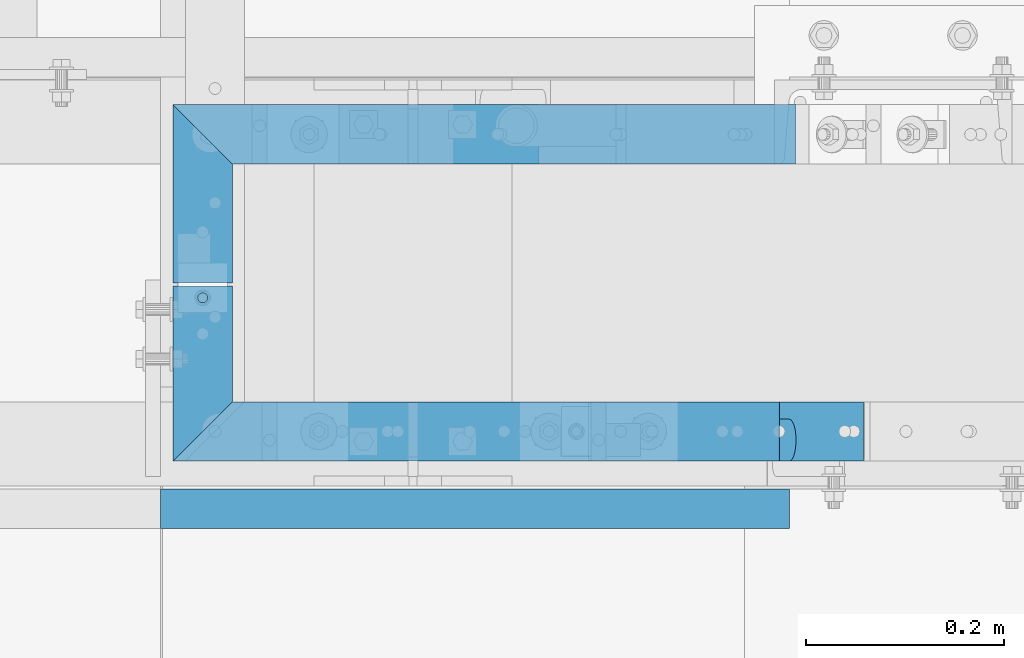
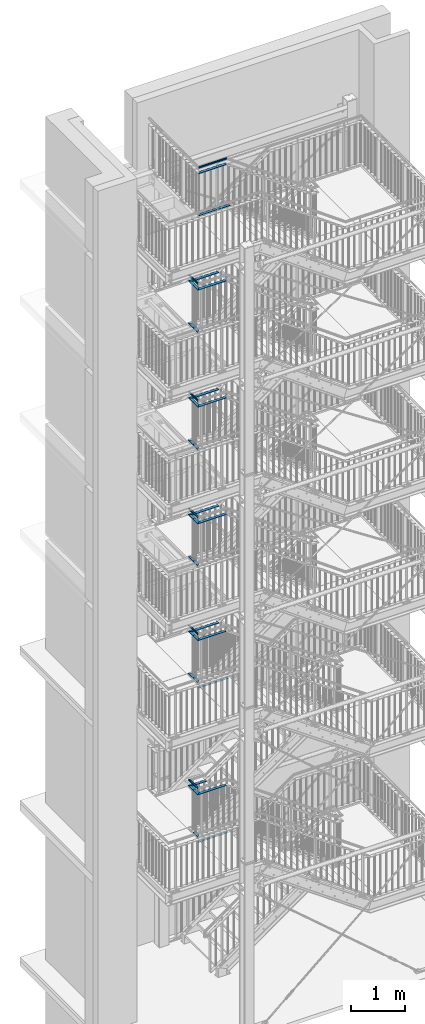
# One storey, part 133 of 825: 47 beams, 13 openings.
"""IFC2X3 building model written with IfcOpenShell, lengths in millimetres."""

from ifc_helpers import new_model, entity, si_unit, converted_unit, frame, frame_2d, origin, origin_with_axes, origin_2d, place, context, project, spatial, polyline, rectangle, circle, hollow_circle, l_section, outline, extrude, clip, halfspace, material, element, save


model = new_model("IFC2X3")

# Units and contexts
model_context = context("Model", 3, precision=1e-09, world=origin_with_axes())
ifc_project = project(units=[si_unit("LENGTHUNIT", "METRE", prefix="MILLI"), si_unit("AREAUNIT", "SQUARE_METRE"), si_unit("VOLUMEUNIT", "CUBIC_METRE"), converted_unit("PLANEANGLEUNIT", "DEGREE", entity("IfcPlaneAngleMeasure", 0.01745329), si_unit("PLANEANGLEUNIT", "RADIAN"), dimensions=[0, 0, 0, 0, 0, 0, 0])], contexts=[model_context])

# Site, building, storey
site_placement = place(None, origin_with_axes())
site = spatial("IfcSite", under=ifc_project, at=site_placement, Name="Cnopf'sche Kinderklinik", CompositionType="ELEMENT")
building_placement = place(site_placement, origin_with_axes())
building = spatial("IfcBuilding", under=site, at=building_placement, Name="Struktur 1", CompositionType="ELEMENT")
storey_placement = place(building_placement, origin_with_axes())
storey = spatial("IfcBuildingStorey", under=building, at=storey_placement, Name="Default Storey", CompositionType="ELEMENT", Elevation=0.0)

# Beam, opening
ifc_material = material(Name="S235JR")
beam_1_placement = place(None, frame((5311.633939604, 5791.736971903, 17899.0), z_axis=(1.0, 0.0, 0.0), x_axis=(0.0, 0.0, -1.0)))
beam_1 = element("IfcBeam", 1, at=beam_1_placement, inside=storey, material=ifc_material, Name="Railing_Kneerail_Landing#4", ObjectType="Railing_Kneerail_Landing#4", context=model_context, shape_type="SweptSolid", body=[
    extrude(rectangle(XDim=10.0, YDim=60.0, at=origin_2d()), origin(), (0.0, 0.0, -1.0), 267.420036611),
])
opening_1_placement = place(beam_1_placement, frame((60.0, 0.0, -267.420036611), z_axis=(-1.0, 0.0, 0.0), x_axis=(0.0, 0.0, 1.0)))
element("IfcOpeningElement", 2, at=opening_1_placement, cuts=beam_1, ObjectType="Opening", context=model_context, shape_type="SweptSolid", body=[
    extrude(outline(polyline([(-7.501, 30.001), (-7.501, -30.001), (7.501, -30.001), (7.501, 30.001), (-7.501, 30.001)])), origin(), (0.0, 0.0, 1.0), 120.0),
])

beam_2_placement = place(None, frame((5033.713902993, 5791.736971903, 17899.0), z_axis=(1.0, 0.0, 0.0), x_axis=(0.0, 0.0, -1.0)))
beam_2 = element("IfcBeam", 3, at=beam_2_placement, inside=storey, material=ifc_material, Name="Railing_Kneerail_Landing#5", ObjectType="Railing_Kneerail_Landing#5", context=model_context, shape_type="Clipping", body=[
    clip(extrude(rectangle(XDim=10.0, YDim=60.0, at=origin_2d()), origin(), (0.0, 0.0, -1.0), 420.012126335), halfspace(frame((17899.0, -5224.225894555, -5601.224980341), z_axis=(0.0, -0.707106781, 0.707106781), x_axis=(0.0, 0.707106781, 0.707106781)), True)),
])
opening_2_placement = place(beam_2_placement, frame((5.5, 0.0, -6.998999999), z_axis=(1.0, 0.0, 0.0), x_axis=(0.0, 1.0, 0.0)))
element("IfcOpeningElement", 4, at=opening_2_placement, cuts=beam_2, ObjectType="Opening", context=model_context, shape_type="SweptSolid", body=[
    extrude(circle(Radius=5.001, at=frame_2d((0.0, -5.001), x_axis=(1.0, 0.0))), origin(), (0.0, 0.0, -1.0), 11.0),
])

# Beams
beam_3_placement = place(None, frame((4558.701776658, 6091.736971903, 16227.8), z_axis=(-1.0, 0.0, 0.0), x_axis=(0.0, 0.0, -1.0)))
element("IfcBeam", 5, at=beam_3_placement, inside=storey, material=ifc_material, Name="Railing_Kneerail_Landing#1001", ObjectType="Railing_Kneerail_Landing#1001", context=model_context, shape_type="Clipping", body=[
    clip(extrude(rectangle(XDim=10.0, YDim=60.0, at=origin_2d()), origin(), (0.0, 0.0, -1.0), 684.847925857), halfspace(frame((16227.8, 723.761077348, -809.274117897), z_axis=(0.0, -0.707106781, -0.707106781), x_axis=(0.0, -0.707106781, 0.707106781)), True)),
])
beam_4_placement = place(None, frame((5226.605754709, 5791.736971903, 16227.8), z_axis=(1.0, 0.0, 0.0), x_axis=(0.0, 0.0, -1.0)))
element("IfcBeam", 6, at=beam_4_placement, inside=storey, material=ifc_material, Name="Railing_Kneerail_Landing#1005", ObjectType="Railing_Kneerail_Landing#1005", context=model_context, shape_type="Clipping", body=[
    clip(extrude(rectangle(XDim=10.0, YDim=60.0, at=origin_2d()), origin(), (0.0, 0.0, -1.0), 625.403978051), halfspace(frame((16227.8, -5217.975894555, -5800.366832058), z_axis=(0.0, -0.707106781, 0.707106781), x_axis=(0.0, 0.707106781, 0.707106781)), True)),
])
beam_5_placement = place(None, frame((4558.701776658, 6091.736971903, 13592.8), z_axis=(-1.0, 0.0, 0.0), x_axis=(0.0, 0.0, -1.0)))
element("IfcBeam", 7, at=beam_5_placement, inside=storey, material=ifc_material, Name="Railing_Kneerail_Landing#1001", ObjectType="Railing_Kneerail_Landing#1001", context=model_context, shape_type="Clipping", body=[
    clip(extrude(rectangle(XDim=10.0, YDim=60.0, at=origin_2d()), origin(), (0.0, 0.0, -1.0), 684.879643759), halfspace(frame((13592.8, 723.761077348, -809.274117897), z_axis=(0.0, -0.707106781, -0.707106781), x_axis=(0.0, -0.707106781, 0.707106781)), True)),
])
beam_6_placement = place(None, frame((5226.630632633, 5791.736971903, 13592.8), z_axis=(1.0, 0.0, 0.0), x_axis=(0.0, 0.0, -1.0)))
element("IfcBeam", 8, at=beam_6_placement, inside=storey, material=ifc_material, Name="Railing_Kneerail_Landing#1005", ObjectType="Railing_Kneerail_Landing#1005", context=model_context, shape_type="Clipping", body=[
    clip(extrude(rectangle(XDim=10.0, YDim=60.0, at=origin_2d()), origin(), (0.0, 0.0, -1.0), 625.428855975), halfspace(frame((13592.8, -5217.975894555, -5800.391709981), z_axis=(0.0, -0.707106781, 0.707106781), x_axis=(0.0, 0.707106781, 0.707106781)), True)),
])
beam_7_placement = place(None, frame((4558.701776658, 6091.736971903, 10965.8), z_axis=(-1.0, 0.0, 0.0), x_axis=(0.0, 0.0, -1.0)))
element("IfcBeam", 9, at=beam_7_placement, inside=storey, material=ifc_material, Name="Railing_Kneerail_Landing#1001", ObjectType="Railing_Kneerail_Landing#1001", context=model_context, shape_type="Clipping", body=[
    clip(extrude(rectangle(XDim=10.0, YDim=60.0, at=origin_2d()), origin(), (0.0, 0.0, -1.0), 684.862739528), halfspace(frame((10965.8, 723.761077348, -809.274117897), z_axis=(0.0, -0.707106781, -0.707106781), x_axis=(0.0, -0.707106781, 0.707106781)), True)),
])
beam_8_placement = place(None, frame((5226.61507921, 5791.736971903, 10965.8), z_axis=(1.0, 0.0, 0.0), x_axis=(0.0, 0.0, -1.0)))
element("IfcBeam", 10, at=beam_8_placement, inside=storey, material=ifc_material, Name="Railing_Kneerail_Landing#1005", ObjectType="Railing_Kneerail_Landing#1005", context=model_context, shape_type="Clipping", body=[
    clip(extrude(rectangle(XDim=10.0, YDim=60.0, at=origin_2d()), origin(), (0.0, 0.0, -1.0), 625.413302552), halfspace(frame((10965.8, -5217.975894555, -5800.376156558), z_axis=(0.0, -0.707106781, 0.707106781), x_axis=(0.0, 0.707106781, 0.707106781)), True)),
])
beam_9_placement = place(None, frame((4558.701776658, 6091.736971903, 8333.8), z_axis=(-1.0, 0.0, 0.0), x_axis=(0.0, 0.0, -1.0)))
element("IfcBeam", 11, at=beam_9_placement, inside=storey, material=ifc_material, Name="Railing_Kneerail_Landing#1001", ObjectType="Railing_Kneerail_Landing#1001", context=model_context, shape_type="Clipping", body=[
    clip(extrude(rectangle(XDim=10.0, YDim=60.0, at=origin_2d()), origin(), (0.0, 0.0, -1.0), 684.873307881), halfspace(frame((8333.8, 723.761077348, -809.274117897), z_axis=(0.0, -0.707106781, -0.707106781), x_axis=(0.0, -0.707106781, 0.707106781)), True)),
])
beam_10_placement = place(None, frame((5226.843558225, 5791.736971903, 8333.8), z_axis=(1.0, 0.0, 0.0), x_axis=(0.0, 0.0, -1.0)))
element("IfcBeam", 12, at=beam_10_placement, inside=storey, material=ifc_material, Name="Railing_Kneerail_Landing#1006", ObjectType="Railing_Kneerail_Landing#1006", context=model_context, shape_type="Clipping", body=[
    clip(extrude(rectangle(XDim=10.0, YDim=60.0, at=origin_2d()), origin(), (0.0, 0.0, -1.0), 625.641781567), halfspace(frame((8333.8, -5217.975894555, -5800.604635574), z_axis=(0.0, -0.707106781, 0.707106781), x_axis=(0.0, 0.707106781, 0.707106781)), True)),
])
beam_11_placement = place(None, frame((4558.701776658, 6091.736971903, 4860.8), z_axis=(-1.0, 0.0, 0.0), x_axis=(0.0, 0.0, -1.0)))
element("IfcBeam", 13, at=beam_11_placement, inside=storey, material=ifc_material, Name="Railing_Kneerail_Landing#1000", ObjectType="Railing_Kneerail_Landing#1000", context=model_context, shape_type="Clipping", body=[
    clip(extrude(rectangle(XDim=10.0, YDim=60.0, at=origin_2d()), origin(), (0.0, 0.0, -1.0), 424.718059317), halfspace(frame((4860.8, 723.761077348, -809.274117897), z_axis=(0.0, -0.707106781, -0.707106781), x_axis=(0.0, -0.707106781, 0.707106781)), True)),
])
beam_12_placement = place(None, frame((5226.741597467, 5791.736971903, 4860.8), z_axis=(1.0, 0.0, 0.0), x_axis=(0.0, 0.0, -1.0)))
element("IfcBeam", 14, at=beam_12_placement, inside=storey, material=ifc_material, Name="Railing_Kneerail_Landing#1006", ObjectType="Railing_Kneerail_Landing#1006", context=model_context, shape_type="Clipping", body=[
    clip(extrude(rectangle(XDim=10.0, YDim=60.0, at=origin_2d()), origin(), (0.0, 0.0, -1.0), 625.539820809), halfspace(frame((4860.8, -5217.975894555, -5800.502674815), z_axis=(0.0, -0.707106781, 0.707106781), x_axis=(0.0, 0.707106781, 0.707106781)), True)),
])
for number, where, z_axis, x_axis, name in (
    (15, (4601.713402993, 5722.536971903, 3835.8), (-1.0, 0.0, 0.0), (0.0, 0.0, -1.0), "TopLanding#3"),
    (16, (4601.713402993, 5722.536971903, 7308.8), (-1.0, 0.0, 0.0), (0.0, 0.0, -1.0), "TopLanding#3"),
):
    element("IfcBeam", number, at=place(None, frame(where, z_axis=z_axis, x_axis=x_axis)), inside=storey, material=ifc_material, Name=name, ObjectType="TopLanding#3", context=model_context, shape_type="SweptSolid", body=[
        extrude(l_section(Depth=40.0, Width=40.0, Thickness=4.0, FilletRadius=6.0, EdgeRadius=3.0, at=frame_2d((8.8, 8.8))), origin(), (0.0, 0.0, -1.0), 635.0),
    ])
beam_13_placement = place(None, frame((5226.652433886, 5791.736971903, 18847.8), z_axis=(1.0, 0.0, 0.0), x_axis=(0.0, 0.0, -1.0)))
element("IfcBeam", 17, at=beam_13_placement, inside=storey, material=ifc_material, Name="Railing_Kneerail_Landing#1005", ObjectType="Railing_Kneerail_Landing#1005", context=model_context, shape_type="SweptSolid", body=[
    extrude(rectangle(XDim=10.0, YDim=60.0, at=origin_2d()), origin(), (0.0, 0.0, -1.0), 189.938530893),
])

# Beam, opening
beam_14_placement = place(None, frame((5033.713902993, 5791.736971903, 18847.8), z_axis=(1.0, 0.0, 0.0), x_axis=(0.0, 0.0, -1.0)))
beam_14 = element("IfcBeam", 18, at=beam_14_placement, inside=storey, material=ifc_material, Name="Railing_Kneerail_Landing#1005", ObjectType="Railing_Kneerail_Landing#1005", context=model_context, shape_type="Clipping", body=[
    clip(extrude(rectangle(XDim=10.0, YDim=60.0, at=origin_2d()), origin(), (0.0, 0.0, -1.0), 420.012126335), halfspace(frame((18847.8, -5224.225894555, -5601.224980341), z_axis=(0.0, -0.707106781, 0.707106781), x_axis=(0.0, 0.707106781, 0.707106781)), True)),
])
opening_3_placement = place(beam_14_placement, frame((5.5, 0.0, -6.998999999), z_axis=(1.0, 0.0, 0.0), x_axis=(0.0, 1.0, 0.0)))
element("IfcOpeningElement", 19, at=opening_3_placement, cuts=beam_14, ObjectType="Opening", context=model_context, shape_type="SweptSolid", body=[
    extrude(circle(Radius=5.001, at=frame_2d((0.0, -5.001), x_axis=(1.0, 0.0))), origin(), (0.0, 0.0, -1.0), 11.0),
])

# Beams
beam_15_placement = place(None, frame((5268.214989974, 5782.936971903, 18974.0), z_axis=(1.0, 0.0, 0.0), x_axis=(0.0, 0.0, -1.0)))
element("IfcBeam", 20, at=beam_15_placement, inside=storey, material=ifc_material, Name="Railing_Handrail_Landing#4", ObjectType="Railing_Handrail_Landing#4", context=model_context, shape_type="Clipping", body=[
    clip(extrude(hollow_circle(Radius=21.2, WallThickness=3.2, at=origin_2d()), origin(), (0.0, 0.0, -1.0), 231.501086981), halfspace(frame((18716.438937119, -5782.936971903, -6066.935776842), z_axis=(-0.306904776, 0.0, -0.951740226), x_axis=(0.0, -1.0, 0.0)), True)),
])
beam_16_placement = place(None, frame((5033.713902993, 5782.936971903, 18974.0), z_axis=(1.0, 0.0, 0.0), x_axis=(0.0, 0.0, -1.0)))
element("IfcBeam", 21, at=beam_16_placement, inside=storey, material=ifc_material, Name="Railing_Handrail_Landing#4", ObjectType="Railing_Handrail_Landing#4", context=model_context, shape_type="Clipping", body=[
    clip(extrude(hollow_circle(Radius=21.2, WallThickness=3.2, at=origin_2d()), origin(), (0.0, 0.0, -1.0), 428.2005), halfspace(frame((18974.0, -5215.425894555, -5601.224980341), z_axis=(0.0, -0.707106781, 0.707106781), x_axis=(0.0, 0.707106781, 0.707106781)), True)),
])
beam_17_placement = place(None, frame((4635.413402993, 5740.536971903, 16354.0), z_axis=(0.0, -1.0, 0.0), x_axis=(0.0, 0.0, -1.0)))
element("IfcBeam", 22, at=beam_17_placement, inside=storey, material=ifc_material, Name="Railing_Handrail_Landing#5", ObjectType="Railing_Handrail_Landing#5", context=model_context, shape_type="Clipping", body=[
    clip(extrude(hollow_circle(Radius=21.2, WallThickness=3.2, at=origin_2d()), origin(), (0.0, 0.0, -1.0), 198.2), halfspace(frame((16354.0, -5209.175894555, 5166.774480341), z_axis=(0.0, -0.707106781, -0.707106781), x_axis=(0.0, -0.707106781, 0.707106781)), True)),
])
beam_18_placement = place(None, frame((4635.413402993, 5941.736971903, 16354.0), z_axis=(0.0, -1.0, 0.0), x_axis=(0.0, 0.0, -1.0)))
element("IfcBeam", 23, at=beam_18_placement, inside=storey, material=ifc_material, Name="Railing_Handrail_Landing#5", ObjectType="Railing_Handrail_Landing#5", context=model_context, shape_type="Clipping", body=[
    clip(extrude(hollow_circle(Radius=21.2, WallThickness=3.2, at=origin_2d()), origin(), (0.0, 0.0, -1.0), 201.2), halfspace(frame((16354.0, 732.561077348, 573.762491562), z_axis=(0.0, -0.707106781, 0.707106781), x_axis=(0.0, 0.707106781, 0.707106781)), True)),
])

# Beam, opening
beam_19_placement = place(None, frame((4644.213402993, 5748.725345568, 16227.8), z_axis=(0.0, -1.0, 0.0), x_axis=(0.0, 0.0, -1.0)))
beam_19 = element("IfcBeam", 24, at=beam_19_placement, inside=storey, material=ifc_material, Name="Railing_Kneerail_Landing#1006", ObjectType="Railing_Kneerail_Landing#1006", context=model_context, shape_type="Clipping", body=[
    clip(extrude(rectangle(XDim=10.0, YDim=60.0, at=origin_2d()), origin(), (0.0, 0.0, -1.0), 190.011626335), halfspace(frame((16227.8, -5217.975894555, 5174.962854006), z_axis=(0.0, -0.707106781, -0.707106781), x_axis=(0.0, -0.707106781, 0.707106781)), True)),
])
opening_4_placement = place(beam_19_placement, frame((5.5, 0.0, -183.012626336), z_axis=(1.0, 0.0, 0.0), x_axis=(0.0, 1.0, 0.0)))
element("IfcOpeningElement", 25, at=opening_4_placement, cuts=beam_19, ObjectType="Opening", context=model_context, shape_type="SweptSolid", body=[
    extrude(circle(Radius=5.001, at=frame_2d((0.0, 5.001), x_axis=(1.0, 0.0))), origin(), (0.0, 0.0, -1.0), 11.0),
])

# Beam
beam_20_placement = place(None, frame((4644.213402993, 5941.736971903, 16227.8), z_axis=(0.0, -1.0, 0.0), x_axis=(0.0, 0.0, -1.0)))
element("IfcBeam", 26, at=beam_20_placement, inside=storey, material=ifc_material, Name="Railing_Kneerail_Landing#1006", ObjectType="Railing_Kneerail_Landing#1006", context=model_context, shape_type="Clipping", body=[
    clip(extrude(rectangle(XDim=10.0, YDim=60.0, at=origin_2d()), origin(), (0.0, 0.0, -1.0), 193.011626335), halfspace(frame((16227.8, 723.761077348, 573.762491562), z_axis=(0.0, -0.707106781, 0.707106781), x_axis=(0.0, 0.707106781, 0.707106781)), True)),
])

# Beam, opening
beam_21_placement = place(None, frame((4644.213402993, 5748.725345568, 15279.0), z_axis=(0.0, -1.0, 0.0), x_axis=(0.0, 0.0, -1.0)))
beam_21 = element("IfcBeam", 27, at=beam_21_placement, inside=storey, material=ifc_material, Name="Railing_Kneerail_Landing#6", ObjectType="Railing_Kneerail_Landing#6", context=model_context, shape_type="Clipping", body=[
    clip(extrude(rectangle(XDim=10.0, YDim=60.0, at=origin_2d()), origin(), (0.0, 0.0, -1.0), 190.011626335), halfspace(frame((15279.0, -5217.975894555, 5174.962854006), z_axis=(0.0, -0.707106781, -0.707106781), x_axis=(0.0, -0.707106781, 0.707106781)), True)),
])
opening_5_placement = place(beam_21_placement, frame((5.5, 0.0, -183.012626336), z_axis=(1.0, 0.0, 0.0), x_axis=(0.0, 1.0, 0.0)))
element("IfcOpeningElement", 28, at=opening_5_placement, cuts=beam_21, ObjectType="Opening", context=model_context, shape_type="SweptSolid", body=[
    extrude(circle(Radius=5.001, at=frame_2d((0.0, 5.001), x_axis=(1.0, 0.0))), origin(), (0.0, 0.0, -1.0), 11.0),
])

# Beams
beam_22_placement = place(None, frame((4644.213402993, 5941.736971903, 15279.0), z_axis=(0.0, -1.0, 0.0), x_axis=(0.0, 0.0, -1.0)))
element("IfcBeam", 29, at=beam_22_placement, inside=storey, material=ifc_material, Name="Railing_Kneerail_Landing#6", ObjectType="Railing_Kneerail_Landing#6", context=model_context, shape_type="Clipping", body=[
    clip(extrude(rectangle(XDim=10.0, YDim=60.0, at=origin_2d()), origin(), (0.0, 0.0, -1.0), 193.011626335), halfspace(frame((15279.0, 723.761077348, 573.762491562), z_axis=(0.0, -0.707106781, 0.707106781), x_axis=(0.0, 0.707106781, 0.707106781)), True)),
])
beam_23_placement = place(None, frame((4635.413402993, 5740.536971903, 13719.0), z_axis=(0.0, -1.0, 0.0), x_axis=(0.0, 0.0, -1.0)))
element("IfcBeam", 30, at=beam_23_placement, inside=storey, material=ifc_material, Name="Railing_Handrail_Landing#5", ObjectType="Railing_Handrail_Landing#5", context=model_context, shape_type="Clipping", body=[
    clip(extrude(hollow_circle(Radius=21.2, WallThickness=3.2, at=origin_2d()), origin(), (0.0, 0.0, -1.0), 198.2), halfspace(frame((13719.0, -5209.175894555, 5166.774480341), z_axis=(0.0, -0.707106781, -0.707106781), x_axis=(0.0, -0.707106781, 0.707106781)), True)),
])
beam_24_placement = place(None, frame((4635.413402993, 5941.736971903, 13719.0), z_axis=(0.0, -1.0, 0.0), x_axis=(0.0, 0.0, -1.0)))
element("IfcBeam", 31, at=beam_24_placement, inside=storey, material=ifc_material, Name="Railing_Handrail_Landing#5", ObjectType="Railing_Handrail_Landing#5", context=model_context, shape_type="Clipping", body=[
    clip(extrude(hollow_circle(Radius=21.2, WallThickness=3.2, at=origin_2d()), origin(), (0.0, 0.0, -1.0), 201.2), halfspace(frame((13719.0, 732.561077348, 573.762491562), z_axis=(0.0, -0.707106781, 0.707106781), x_axis=(0.0, 0.707106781, 0.707106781)), True)),
])

# Beam, opening
beam_25_placement = place(None, frame((4644.213402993, 5748.725345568, 13592.8), z_axis=(0.0, -1.0, 0.0), x_axis=(0.0, 0.0, -1.0)))
beam_25 = element("IfcBeam", 32, at=beam_25_placement, inside=storey, material=ifc_material, Name="Railing_Kneerail_Landing#1006", ObjectType="Railing_Kneerail_Landing#1006", context=model_context, shape_type="Clipping", body=[
    clip(extrude(rectangle(XDim=10.0, YDim=60.0, at=origin_2d()), origin(), (0.0, 0.0, -1.0), 190.011626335), halfspace(frame((13592.8, -5217.975894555, 5174.962854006), z_axis=(0.0, -0.707106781, -0.707106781), x_axis=(0.0, -0.707106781, 0.707106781)), True)),
])
opening_6_placement = place(beam_25_placement, frame((5.5, 0.0, -183.012626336), z_axis=(1.0, 0.0, 0.0), x_axis=(0.0, 1.0, 0.0)))
element("IfcOpeningElement", 33, at=opening_6_placement, cuts=beam_25, ObjectType="Opening", context=model_context, shape_type="SweptSolid", body=[
    extrude(circle(Radius=5.001, at=frame_2d((0.0, 5.001), x_axis=(1.0, 0.0))), origin(), (0.0, 0.0, -1.0), 11.0),
])

# Beam
beam_26_placement = place(None, frame((4644.213402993, 5941.736971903, 13592.8), z_axis=(0.0, -1.0, 0.0), x_axis=(0.0, 0.0, -1.0)))
element("IfcBeam", 34, at=beam_26_placement, inside=storey, material=ifc_material, Name="Railing_Kneerail_Landing#1006", ObjectType="Railing_Kneerail_Landing#1006", context=model_context, shape_type="Clipping", body=[
    clip(extrude(rectangle(XDim=10.0, YDim=60.0, at=origin_2d()), origin(), (0.0, 0.0, -1.0), 193.011626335), halfspace(frame((13592.8, 723.761077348, 573.762491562), z_axis=(0.0, -0.707106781, 0.707106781), x_axis=(0.0, 0.707106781, 0.707106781)), True)),
])

# Beam, opening
beam_27_placement = place(None, frame((4644.213402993, 5748.725345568, 12644.0), z_axis=(0.0, -1.0, 0.0), x_axis=(0.0, 0.0, -1.0)))
beam_27 = element("IfcBeam", 35, at=beam_27_placement, inside=storey, material=ifc_material, Name="Railing_Kneerail_Landing#6", ObjectType="Railing_Kneerail_Landing#6", context=model_context, shape_type="Clipping", body=[
    clip(extrude(rectangle(XDim=10.0, YDim=60.0, at=origin_2d()), origin(), (0.0, 0.0, -1.0), 190.011626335), halfspace(frame((12644.0, -5217.975894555, 5174.962854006), z_axis=(0.0, -0.707106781, -0.707106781), x_axis=(0.0, -0.707106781, 0.707106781)), True)),
])
opening_7_placement = place(beam_27_placement, frame((5.5, 0.0, -183.012626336), z_axis=(1.0, 0.0, 0.0), x_axis=(0.0, 1.0, 0.0)))
element("IfcOpeningElement", 36, at=opening_7_placement, cuts=beam_27, ObjectType="Opening", context=model_context, shape_type="SweptSolid", body=[
    extrude(circle(Radius=5.001, at=frame_2d((0.0, 5.001), x_axis=(1.0, 0.0))), origin(), (0.0, 0.0, -1.0), 11.0),
])

# Beams
beam_28_placement = place(None, frame((4644.213402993, 5941.736971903, 12644.0), z_axis=(0.0, -1.0, 0.0), x_axis=(0.0, 0.0, -1.0)))
element("IfcBeam", 37, at=beam_28_placement, inside=storey, material=ifc_material, Name="Railing_Kneerail_Landing#6", ObjectType="Railing_Kneerail_Landing#6", context=model_context, shape_type="Clipping", body=[
    clip(extrude(rectangle(XDim=10.0, YDim=60.0, at=origin_2d()), origin(), (0.0, 0.0, -1.0), 193.011626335), halfspace(frame((12644.0, 723.761077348, 573.762491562), z_axis=(0.0, -0.707106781, 0.707106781), x_axis=(0.0, 0.707106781, 0.707106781)), True)),
])
beam_29_placement = place(None, frame((4635.413402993, 5740.536971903, 11092.0), z_axis=(0.0, -1.0, 0.0), x_axis=(0.0, 0.0, -1.0)))
element("IfcBeam", 38, at=beam_29_placement, inside=storey, material=ifc_material, Name="Railing_Handrail_Landing#5", ObjectType="Railing_Handrail_Landing#5", context=model_context, shape_type="Clipping", body=[
    clip(extrude(hollow_circle(Radius=21.2, WallThickness=3.2, at=origin_2d()), origin(), (0.0, 0.0, -1.0), 198.2), halfspace(frame((11092.0, -5209.175894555, 5166.774480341), z_axis=(0.0, -0.707106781, -0.707106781), x_axis=(0.0, -0.707106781, 0.707106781)), True)),
])
beam_30_placement = place(None, frame((4635.413402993, 5941.736971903, 11092.0), z_axis=(0.0, -1.0, 0.0), x_axis=(0.0, 0.0, -1.0)))
element("IfcBeam", 39, at=beam_30_placement, inside=storey, material=ifc_material, Name="Railing_Handrail_Landing#5", ObjectType="Railing_Handrail_Landing#5", context=model_context, shape_type="Clipping", body=[
    clip(extrude(hollow_circle(Radius=21.2, WallThickness=3.2, at=origin_2d()), origin(), (0.0, 0.0, -1.0), 201.2), halfspace(frame((11092.0, 732.561077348, 573.762491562), z_axis=(0.0, -0.707106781, 0.707106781), x_axis=(0.0, 0.707106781, 0.707106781)), True)),
])

# Beam, opening
beam_31_placement = place(None, frame((4644.213402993, 5748.725345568, 10965.8), z_axis=(0.0, -1.0, 0.0), x_axis=(0.0, 0.0, -1.0)))
beam_31 = element("IfcBeam", 40, at=beam_31_placement, inside=storey, material=ifc_material, Name="Railing_Kneerail_Landing#1006", ObjectType="Railing_Kneerail_Landing#1006", context=model_context, shape_type="Clipping", body=[
    clip(extrude(rectangle(XDim=10.0, YDim=60.0, at=origin_2d()), origin(), (0.0, 0.0, -1.0), 190.011626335), halfspace(frame((10965.8, -5217.975894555, 5174.962854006), z_axis=(0.0, -0.707106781, -0.707106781), x_axis=(0.0, -0.707106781, 0.707106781)), True)),
])
opening_8_placement = place(beam_31_placement, frame((5.5, 0.0, -183.012626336), z_axis=(1.0, 0.0, 0.0), x_axis=(0.0, 1.0, 0.0)))
element("IfcOpeningElement", 41, at=opening_8_placement, cuts=beam_31, ObjectType="Opening", context=model_context, shape_type="SweptSolid", body=[
    extrude(circle(Radius=5.001, at=frame_2d((0.0, 5.001), x_axis=(1.0, 0.0))), origin(), (0.0, 0.0, -1.0), 11.0),
])

# Beam
beam_32_placement = place(None, frame((4644.213402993, 5941.736971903, 10965.8), z_axis=(0.0, -1.0, 0.0), x_axis=(0.0, 0.0, -1.0)))
element("IfcBeam", 42, at=beam_32_placement, inside=storey, material=ifc_material, Name="Railing_Kneerail_Landing#1006", ObjectType="Railing_Kneerail_Landing#1006", context=model_context, shape_type="Clipping", body=[
    clip(extrude(rectangle(XDim=10.0, YDim=60.0, at=origin_2d()), origin(), (0.0, 0.0, -1.0), 193.011626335), halfspace(frame((10965.8, 723.761077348, 573.762491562), z_axis=(0.0, -0.707106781, 0.707106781), x_axis=(0.0, 0.707106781, 0.707106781)), True)),
])

# Beam, opening
beam_33_placement = place(None, frame((4644.213402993, 5748.725345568, 10017.0), z_axis=(0.0, -1.0, 0.0), x_axis=(0.0, 0.0, -1.0)))
beam_33 = element("IfcBeam", 43, at=beam_33_placement, inside=storey, material=ifc_material, Name="Railing_Kneerail_Landing#6", ObjectType="Railing_Kneerail_Landing#6", context=model_context, shape_type="Clipping", body=[
    clip(extrude(rectangle(XDim=10.0, YDim=60.0, at=origin_2d()), origin(), (0.0, 0.0, -1.0), 190.011626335), halfspace(frame((10017.0, -5217.975894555, 5174.962854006), z_axis=(0.0, -0.707106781, -0.707106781), x_axis=(0.0, -0.707106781, 0.707106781)), True)),
])
opening_9_placement = place(beam_33_placement, frame((5.5, 0.0, -183.012626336), z_axis=(1.0, 0.0, 0.0), x_axis=(0.0, 1.0, 0.0)))
element("IfcOpeningElement", 44, at=opening_9_placement, cuts=beam_33, ObjectType="Opening", context=model_context, shape_type="SweptSolid", body=[
    extrude(circle(Radius=5.001, at=frame_2d((0.0, 5.001), x_axis=(1.0, 0.0))), origin(), (0.0, 0.0, -1.0), 11.0),
])

# Beams
beam_34_placement = place(None, frame((4644.213402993, 5941.736971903, 10017.0), z_axis=(0.0, -1.0, 0.0), x_axis=(0.0, 0.0, -1.0)))
element("IfcBeam", 45, at=beam_34_placement, inside=storey, material=ifc_material, Name="Railing_Kneerail_Landing#6", ObjectType="Railing_Kneerail_Landing#6", context=model_context, shape_type="Clipping", body=[
    clip(extrude(rectangle(XDim=10.0, YDim=60.0, at=origin_2d()), origin(), (0.0, 0.0, -1.0), 193.011626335), halfspace(frame((10017.0, 723.761077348, 573.762491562), z_axis=(0.0, -0.707106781, 0.707106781), x_axis=(0.0, 0.707106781, 0.707106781)), True)),
])
beam_35_placement = place(None, frame((4635.413402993, 5740.536971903, 8460.0), z_axis=(0.0, -1.0, 0.0), x_axis=(0.0, 0.0, -1.0)))
element("IfcBeam", 46, at=beam_35_placement, inside=storey, material=ifc_material, Name="Railing_Handrail_Landing#5", ObjectType="Railing_Handrail_Landing#5", context=model_context, shape_type="Clipping", body=[
    clip(extrude(hollow_circle(Radius=21.2, WallThickness=3.2, at=origin_2d()), origin(), (0.0, 0.0, -1.0), 198.2), halfspace(frame((8460.0, -5209.175894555, 5166.774480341), z_axis=(0.0, -0.707106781, -0.707106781), x_axis=(0.0, -0.707106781, 0.707106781)), True)),
])
beam_36_placement = place(None, frame((4635.413402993, 5941.736971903, 8460.0), z_axis=(0.0, -1.0, 0.0), x_axis=(0.0, 0.0, -1.0)))
element("IfcBeam", 47, at=beam_36_placement, inside=storey, material=ifc_material, Name="Railing_Handrail_Landing#5", ObjectType="Railing_Handrail_Landing#5", context=model_context, shape_type="Clipping", body=[
    clip(extrude(hollow_circle(Radius=21.2, WallThickness=3.2, at=origin_2d()), origin(), (0.0, 0.0, -1.0), 201.2), halfspace(frame((8460.0, 732.561077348, 573.762491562), z_axis=(0.0, -0.707106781, 0.707106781), x_axis=(0.0, 0.707106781, 0.707106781)), True)),
])

# Beam, opening
beam_37_placement = place(None, frame((4644.213402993, 5748.725345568, 8333.8), z_axis=(0.0, -1.0, 0.0), x_axis=(0.0, 0.0, -1.0)))
beam_37 = element("IfcBeam", 48, at=beam_37_placement, inside=storey, material=ifc_material, Name="Railing_Kneerail_Landing#1007", ObjectType="Railing_Kneerail_Landing#1007", context=model_context, shape_type="Clipping", body=[
    clip(extrude(rectangle(XDim=10.0, YDim=60.0, at=origin_2d()), origin(), (0.0, 0.0, -1.0), 190.011626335), halfspace(frame((8333.8, -5217.975894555, 5174.962854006), z_axis=(0.0, -0.707106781, -0.707106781), x_axis=(0.0, -0.707106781, 0.707106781)), True)),
])
opening_10_placement = place(beam_37_placement, frame((5.5, 0.0, -183.012626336), z_axis=(1.0, 0.0, 0.0), x_axis=(0.0, 1.0, 0.0)))
element("IfcOpeningElement", 49, at=opening_10_placement, cuts=beam_37, ObjectType="Opening", context=model_context, shape_type="SweptSolid", body=[
    extrude(circle(Radius=5.001, at=frame_2d((0.0, 5.001), x_axis=(1.0, 0.0))), origin(), (0.0, 0.0, -1.0), 11.0),
])

# Beam
beam_38_placement = place(None, frame((4644.213402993, 5941.736971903, 8333.8), z_axis=(0.0, -1.0, 0.0), x_axis=(0.0, 0.0, -1.0)))
element("IfcBeam", 50, at=beam_38_placement, inside=storey, material=ifc_material, Name="Railing_Kneerail_Landing#1007", ObjectType="Railing_Kneerail_Landing#1007", context=model_context, shape_type="Clipping", body=[
    clip(extrude(rectangle(XDim=10.0, YDim=60.0, at=origin_2d()), origin(), (0.0, 0.0, -1.0), 193.011626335), halfspace(frame((8333.8, 723.761077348, 573.762491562), z_axis=(0.0, -0.707106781, 0.707106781), x_axis=(0.0, 0.707106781, 0.707106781)), True)),
])

# Beam, opening
beam_39_placement = place(None, frame((4644.213402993, 5748.725345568, 7385.0), z_axis=(0.0, -1.0, 0.0), x_axis=(0.0, 0.0, -1.0)))
beam_39 = element("IfcBeam", 51, at=beam_39_placement, inside=storey, material=ifc_material, Name="Railing_Kneerail_Landing#7", ObjectType="Railing_Kneerail_Landing#7", context=model_context, shape_type="Clipping", body=[
    clip(extrude(rectangle(XDim=10.0, YDim=60.0, at=origin_2d()), origin(), (0.0, 0.0, -1.0), 190.011626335), halfspace(frame((7385.0, -5217.975894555, 5174.962854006), z_axis=(0.0, -0.707106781, -0.707106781), x_axis=(0.0, -0.707106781, 0.707106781)), True)),
])
opening_11_placement = place(beam_39_placement, frame((5.5, 0.0, -183.012626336), z_axis=(1.0, 0.0, 0.0), x_axis=(0.0, 1.0, 0.0)))
element("IfcOpeningElement", 52, at=opening_11_placement, cuts=beam_39, ObjectType="Opening", context=model_context, shape_type="SweptSolid", body=[
    extrude(circle(Radius=5.001, at=frame_2d((0.0, 5.001), x_axis=(1.0, 0.0))), origin(), (0.0, 0.0, -1.0), 11.0),
])

# Beams
beam_40_placement = place(None, frame((4644.213402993, 5941.736971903, 7385.0), z_axis=(0.0, -1.0, 0.0), x_axis=(0.0, 0.0, -1.0)))
element("IfcBeam", 53, at=beam_40_placement, inside=storey, material=ifc_material, Name="Railing_Kneerail_Landing#7", ObjectType="Railing_Kneerail_Landing#7", context=model_context, shape_type="Clipping", body=[
    clip(extrude(rectangle(XDim=10.0, YDim=60.0, at=origin_2d()), origin(), (0.0, 0.0, -1.0), 193.011626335), halfspace(frame((7385.0, 723.761077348, 573.762491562), z_axis=(0.0, -0.707106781, 0.707106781), x_axis=(0.0, 0.707106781, 0.707106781)), True)),
])
beam_41_placement = place(None, frame((4635.413402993, 5740.536971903, 4987.0), z_axis=(0.0, -1.0, 0.0), x_axis=(0.0, 0.0, -1.0)))
element("IfcBeam", 54, at=beam_41_placement, inside=storey, material=ifc_material, Name="Railing_Handrail_Landing#5", ObjectType="Railing_Handrail_Landing#5", context=model_context, shape_type="Clipping", body=[
    clip(extrude(hollow_circle(Radius=21.2, WallThickness=3.2, at=origin_2d()), origin(), (0.0, 0.0, -1.0), 198.2), halfspace(frame((4987.0, -5209.175894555, 5166.774480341), z_axis=(0.0, -0.707106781, -0.707106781), x_axis=(0.0, -0.707106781, 0.707106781)), True)),
])
beam_42_placement = place(None, frame((4635.413402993, 5941.736971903, 4987.0), z_axis=(0.0, -1.0, 0.0), x_axis=(0.0, 0.0, -1.0)))
element("IfcBeam", 55, at=beam_42_placement, inside=storey, material=ifc_material, Name="Railing_Handrail_Landing#5", ObjectType="Railing_Handrail_Landing#5", context=model_context, shape_type="Clipping", body=[
    clip(extrude(hollow_circle(Radius=21.2, WallThickness=3.2, at=origin_2d()), origin(), (0.0, 0.0, -1.0), 201.2), halfspace(frame((4987.0, 732.561077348, 573.762491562), z_axis=(0.0, -0.707106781, 0.707106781), x_axis=(0.0, 0.707106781, 0.707106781)), True)),
])

# Beam, opening
beam_43_placement = place(None, frame((4644.213402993, 5748.725345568, 4860.8), z_axis=(0.0, -1.0, 0.0), x_axis=(0.0, 0.0, -1.0)))
beam_43 = element("IfcBeam", 56, at=beam_43_placement, inside=storey, material=ifc_material, Name="Railing_Kneerail_Landing#1007", ObjectType="Railing_Kneerail_Landing#1007", context=model_context, shape_type="Clipping", body=[
    clip(extrude(rectangle(XDim=10.0, YDim=60.0, at=origin_2d()), origin(), (0.0, 0.0, -1.0), 190.011626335), halfspace(frame((4860.8, -5217.975894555, 5174.962854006), z_axis=(0.0, -0.707106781, -0.707106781), x_axis=(0.0, -0.707106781, 0.707106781)), True)),
])
opening_12_placement = place(beam_43_placement, frame((5.5, 0.0, -183.012626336), z_axis=(1.0, 0.0, 0.0), x_axis=(0.0, 1.0, 0.0)))
element("IfcOpeningElement", 57, at=opening_12_placement, cuts=beam_43, ObjectType="Opening", context=model_context, shape_type="SweptSolid", body=[
    extrude(circle(Radius=5.001, at=frame_2d((0.0, 5.001), x_axis=(1.0, 0.0))), origin(), (0.0, 0.0, -1.0), 11.0),
])

# Beam
beam_44_placement = place(None, frame((4644.213402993, 5941.736971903, 4860.8), z_axis=(0.0, -1.0, 0.0), x_axis=(0.0, 0.0, -1.0)))
element("IfcBeam", 58, at=beam_44_placement, inside=storey, material=ifc_material, Name="Railing_Kneerail_Landing#1007", ObjectType="Railing_Kneerail_Landing#1007", context=model_context, shape_type="Clipping", body=[
    clip(extrude(rectangle(XDim=10.0, YDim=60.0, at=origin_2d()), origin(), (0.0, 0.0, -1.0), 193.011626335), halfspace(frame((4860.8, 723.761077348, 573.762491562), z_axis=(0.0, -0.707106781, 0.707106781), x_axis=(0.0, 0.707106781, 0.707106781)), True)),
])

# Beam, opening
beam_45_placement = place(None, frame((4644.213402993, 5748.725345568, 3912.0), z_axis=(0.0, -1.0, 0.0), x_axis=(0.0, 0.0, -1.0)))
beam_45 = element("IfcBeam", 59, at=beam_45_placement, inside=storey, material=ifc_material, Name="Railing_Kneerail_Landing#7", ObjectType="Railing_Kneerail_Landing#7", context=model_context, shape_type="Clipping", body=[
    clip(extrude(rectangle(XDim=10.0, YDim=60.0, at=origin_2d()), origin(), (0.0, 0.0, -1.0), 190.011626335), halfspace(frame((3912.0, -5217.975894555, 5174.962854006), z_axis=(0.0, -0.707106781, -0.707106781), x_axis=(0.0, -0.707106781, 0.707106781)), True)),
])
opening_13_placement = place(beam_45_placement, frame((5.5, 0.0, -183.012626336), z_axis=(1.0, 0.0, 0.0), x_axis=(0.0, 1.0, 0.0)))
element("IfcOpeningElement", 60, at=opening_13_placement, cuts=beam_45, ObjectType="Opening", context=model_context, shape_type="SweptSolid", body=[
    extrude(circle(Radius=5.001, at=frame_2d((0.0, 5.001), x_axis=(1.0, 0.0))), origin(), (0.0, 0.0, -1.0), 11.0),
])

save(model, "model.ifc")
